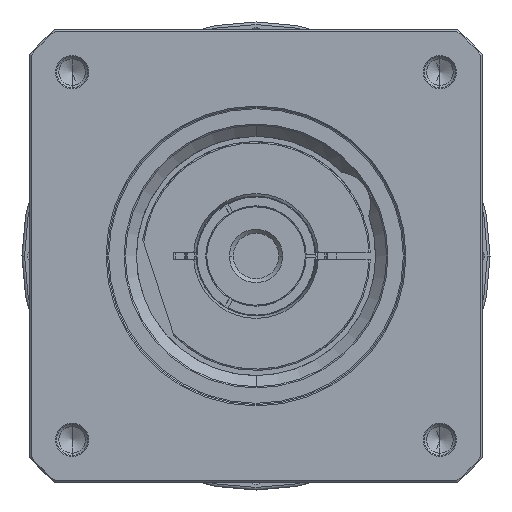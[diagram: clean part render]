
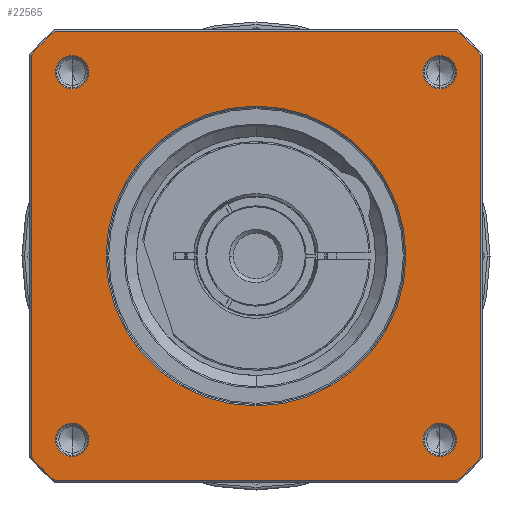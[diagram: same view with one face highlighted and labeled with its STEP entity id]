
A CAD part, left-side view. The second image highlights one B-rep face of the part: STEP entity #22565.
In plain terms, the highlighted planar face has unit normal (-1, 0, 0) as drawn and (0, 0, 1) by its records, which use the part's own axes.
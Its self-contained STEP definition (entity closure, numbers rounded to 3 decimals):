
#21316=CARTESIAN_POINT('',(0.,0.,
76.));
#21317=DIRECTION('',(0.,0.,-1.));
#21318=DIRECTION('',(0.,-1.,0.));
#21319=AXIS2_PLACEMENT_3D('',#21316,#21317,#21318);
#21321=CARTESIAN_POINT('',(0.,0.,
76.));
#21322=DIRECTION('',(0.,0.,-1.));
#21323=DIRECTION('',(0.,1.,0.));
#21324=AXIS2_PLACEMENT_3D('',#21321,#21322,#21323);
#21326=CARTESIAN_POINT('',(0.,0.,76.));
#21327=DIRECTION('',(0.,0.,1.));
#21328=DIRECTION('',(-0.746,-0.666,0.));
#21329=AXIS2_PLACEMENT_3D('',#21326,#21327,#21328);
#21341=DIRECTION('',(1.,0.,0.));
#21342=VECTOR('',#21341,154.58);
#21343=CARTESIAN_POINT('',(-77.29,-86.5,76.));
#21344=LINE('',#21343,#21342);
#21354=CARTESIAN_POINT('',(0.,0.,76.));
#21355=DIRECTION('',(0.,0.,1.));
#21356=DIRECTION('',(0.666,-0.746,0.));
#21357=AXIS2_PLACEMENT_3D('',#21354,#21355,#21356);
#21369=DIRECTION('',(0.,1.,0.));
#21370=VECTOR('',#21369,154.58);
#21371=CARTESIAN_POINT('',(86.5,-77.29,76.));
#21372=LINE('',#21371,#21370);
#21382=CARTESIAN_POINT('',(0.,0.,76.));
#21383=DIRECTION('',(0.,0.,1.));
#21384=DIRECTION('',(0.746,0.666,0.));
#21385=AXIS2_PLACEMENT_3D('',#21382,#21383,#21384);
#21397=DIRECTION('',(-1.,0.,0.));
#21398=VECTOR('',#21397,154.58);
#21399=CARTESIAN_POINT('',(77.29,86.5,76.));
#21400=LINE('',#21399,#21398);
#21405=CARTESIAN_POINT('',(0.,0.,76.));
#21406=DIRECTION('',(0.,0.,1.));
#21407=DIRECTION('',(-0.666,0.746,0.));
#21408=AXIS2_PLACEMENT_3D('',#21405,#21406,#21407);
#21425=DIRECTION('',(0.,-1.,0.));
#21426=VECTOR('',#21425,154.58);
#21427=CARTESIAN_POINT('',(-86.5,77.29,76.));
#21428=LINE('',#21427,#21426);
#21511=CARTESIAN_POINT('',(-70.711,70.711,76.));
#21512=DIRECTION('',(0.,0.,1.));
#21513=DIRECTION('',(-1.,0.,0.));
#21514=AXIS2_PLACEMENT_3D('',#21511,#21512,#21513);
#21529=CARTESIAN_POINT('',(-70.711,70.711,76.));
#21530=DIRECTION('',(0.,0.,1.));
#21531=DIRECTION('',(1.,0.,0.));
#21532=AXIS2_PLACEMENT_3D('',#21529,#21530,#21531);
#21565=CARTESIAN_POINT('',(70.711,70.711,76.));
#21566=DIRECTION('',(0.,0.,1.));
#21567=DIRECTION('',(-1.,0.,0.));
#21568=AXIS2_PLACEMENT_3D('',#21565,#21566,#21567);
#21583=CARTESIAN_POINT('',(70.711,70.711,76.));
#21584=DIRECTION('',(0.,0.,1.));
#21585=DIRECTION('',(1.,0.,0.));
#21586=AXIS2_PLACEMENT_3D('',#21583,#21584,#21585);
#21619=CARTESIAN_POINT('',(70.711,-70.711,76.));
#21620=DIRECTION('',(0.,0.,1.));
#21621=DIRECTION('',(-1.,0.,0.));
#21622=AXIS2_PLACEMENT_3D('',#21619,#21620,#21621);
#21637=CARTESIAN_POINT('',(70.711,-70.711,76.));
#21638=DIRECTION('',(0.,0.,1.));
#21639=DIRECTION('',(1.,0.,0.));
#21640=AXIS2_PLACEMENT_3D('',#21637,#21638,#21639);
#21673=CARTESIAN_POINT('',(-70.711,-70.711,76.));
#21674=DIRECTION('',(0.,0.,1.));
#21675=DIRECTION('',(-1.,0.,0.));
#21676=AXIS2_PLACEMENT_3D('',#21673,#21674,#21675);
#21691=CARTESIAN_POINT('',(-70.711,-70.711,76.));
#21692=DIRECTION('',(0.,0.,1.));
#21693=DIRECTION('',(1.,0.,0.));
#21694=AXIS2_PLACEMENT_3D('',#21691,#21692,#21693);
#21823=CARTESIAN_POINT('',(86.5,-77.29,76.));
#21824=CARTESIAN_POINT('',(86.5,77.29,76.));
#21825=VERTEX_POINT('',#21823);
#21826=VERTEX_POINT('',#21824);
#21831=CARTESIAN_POINT('',(77.29,-86.5,76.));
#21832=VERTEX_POINT('',#21831);
#21835=CARTESIAN_POINT('',(-77.29,-86.5,76.));
#21836=VERTEX_POINT('',#21835);
#21839=CARTESIAN_POINT('',(-86.5,-77.29,76.));
#21840=VERTEX_POINT('',#21839);
#21843=CARTESIAN_POINT('',(-86.5,77.29,76.));
#21844=VERTEX_POINT('',#21843);
#21847=CARTESIAN_POINT('',(-77.29,86.5,76.));
#21848=VERTEX_POINT('',#21847);
#21851=CARTESIAN_POINT('',(77.29,86.5,76.));
#21852=VERTEX_POINT('',#21851);
#21861=CARTESIAN_POINT('',(-77.111,70.711,76.));
#21862=CARTESIAN_POINT('',(-64.311,70.711,76.));
#21863=VERTEX_POINT('',#21861);
#21864=VERTEX_POINT('',#21862);
#21887=CARTESIAN_POINT('',(77.111,70.711,76.));
#21888=CARTESIAN_POINT('',(64.311,70.711,76.));
#21889=VERTEX_POINT('',#21887);
#21890=VERTEX_POINT('',#21888);
#21895=CARTESIAN_POINT('',(77.111,-70.711,76.));
#21896=CARTESIAN_POINT('',(64.311,-70.711,76.));
#21897=VERTEX_POINT('',#21895);
#21898=VERTEX_POINT('',#21896);
#21903=CARTESIAN_POINT('',(-64.311,-70.711,76.));
#21904=CARTESIAN_POINT('',(-77.111,-70.711,76.));
#21905=VERTEX_POINT('',#21903);
#21906=VERTEX_POINT('',#21904);
#21911=CARTESIAN_POINT('',(0.,-57.65,76.));
#21912=CARTESIAN_POINT('',(0.,57.65,
76.));
#21913=VERTEX_POINT('',#21911);
#21914=VERTEX_POINT('',#21912);
#22513=CARTESIAN_POINT('',(0.,0.,76.));
#22514=DIRECTION('',(0.,0.,1.));
#22515=DIRECTION('',(1.,0.,0.));
#22516=AXIS2_PLACEMENT_3D('',#22513,#22514,#22515);
#22517=PLANE('',#22516);
#22519=ORIENTED_EDGE('',*,*,#22518,.F.);
#22521=ORIENTED_EDGE('',*,*,#22520,.F.);
#22523=ORIENTED_EDGE('',*,*,#22522,.F.);
#22525=ORIENTED_EDGE('',*,*,#22524,.F.);
#22527=ORIENTED_EDGE('',*,*,#22526,.F.);
#22529=ORIENTED_EDGE('',*,*,#22528,.F.);
#22531=ORIENTED_EDGE('',*,*,#22530,.F.);
#22533=ORIENTED_EDGE('',*,*,#22532,.F.);
#22534=EDGE_LOOP('',(#22519,#22521,#22523,#22525,#22527,#22529,#22531,#22533));
#22535=FACE_OUTER_BOUND('',#22534,.F.);
#22536=ORIENTED_EDGE('',*,*,#22503,.F.);
#22538=ORIENTED_EDGE('',*,*,#22537,.F.);
#22539=EDGE_LOOP('',(#22536,#22538));
#22540=FACE_BOUND('',#22539,.F.);
#22542=ORIENTED_EDGE('',*,*,#22541,.T.);
#22544=ORIENTED_EDGE('',*,*,#22543,.T.);
#22545=EDGE_LOOP('',(#22542,#22544));
#22546=FACE_BOUND('',#22545,.F.);
#22548=ORIENTED_EDGE('',*,*,#22547,.T.);
#22550=ORIENTED_EDGE('',*,*,#22549,.T.);
#22551=EDGE_LOOP('',(#22548,#22550));
#22552=FACE_BOUND('',#22551,.F.);
#22554=ORIENTED_EDGE('',*,*,#22553,.T.);
#22556=ORIENTED_EDGE('',*,*,#22555,.T.);
#22557=EDGE_LOOP('',(#22554,#22556));
#22558=FACE_BOUND('',#22557,.F.);
#22560=ORIENTED_EDGE('',*,*,#22559,.T.);
#22562=ORIENTED_EDGE('',*,*,#22561,.T.);
#22563=EDGE_LOOP('',(#22560,#22562));
#22564=FACE_BOUND('',#22563,.F.);
#22565=ADVANCED_FACE('',(#22535,#22540,#22546,#22552,#22558,#22564),#22517,.T.);
#21320=CIRCLE('',#21319,57.65);
#21325=CIRCLE('',#21324,57.65);
#21330=CIRCLE('',#21329,116.);
#21358=CIRCLE('',#21357,116.);
#21386=CIRCLE('',#21385,116.);
#21409=CIRCLE('',#21408,116.);
#21515=CIRCLE('',#21514,6.4);
#21533=CIRCLE('',#21532,6.4);
#21569=CIRCLE('',#21568,6.4);
#21587=CIRCLE('',#21586,6.4);
#21623=CIRCLE('',#21622,6.4);
#21641=CIRCLE('',#21640,6.4);
#21677=CIRCLE('',#21676,6.4);
#21695=CIRCLE('',#21694,6.4);
#22503=EDGE_CURVE('',#21913,#21914,#21320,.T.);
#22518=EDGE_CURVE('',#21840,#21836,#21330,.T.);
#22520=EDGE_CURVE('',#21844,#21840,#21428,.T.);
#22522=EDGE_CURVE('',#21848,#21844,#21409,.T.);
#22524=EDGE_CURVE('',#21852,#21848,#21400,.T.);
#22526=EDGE_CURVE('',#21826,#21852,#21386,.T.);
#22528=EDGE_CURVE('',#21825,#21826,#21372,.T.);
#22530=EDGE_CURVE('',#21832,#21825,#21358,.T.);
#22532=EDGE_CURVE('',#21836,#21832,#21344,.T.);
#22537=EDGE_CURVE('',#21914,#21913,#21325,.T.);
#22541=EDGE_CURVE('',#21863,#21864,#21515,.T.);
#22543=EDGE_CURVE('',#21864,#21863,#21533,.T.);
#22547=EDGE_CURVE('',#21890,#21889,#21569,.T.);
#22549=EDGE_CURVE('',#21889,#21890,#21587,.T.);
#22553=EDGE_CURVE('',#21898,#21897,#21623,.T.);
#22555=EDGE_CURVE('',#21897,#21898,#21641,.T.);
#22559=EDGE_CURVE('',#21906,#21905,#21677,.T.);
#22561=EDGE_CURVE('',#21905,#21906,#21695,.T.);
